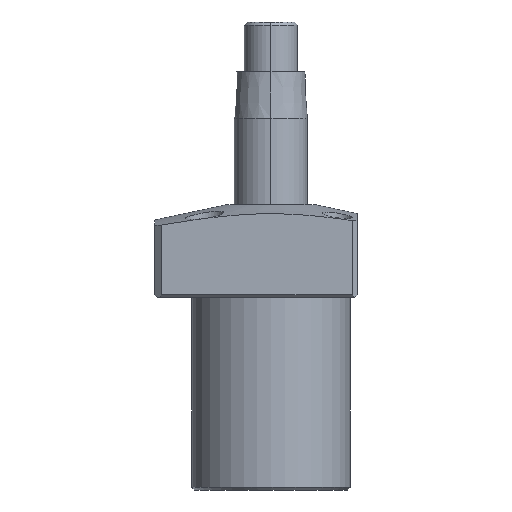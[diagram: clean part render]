
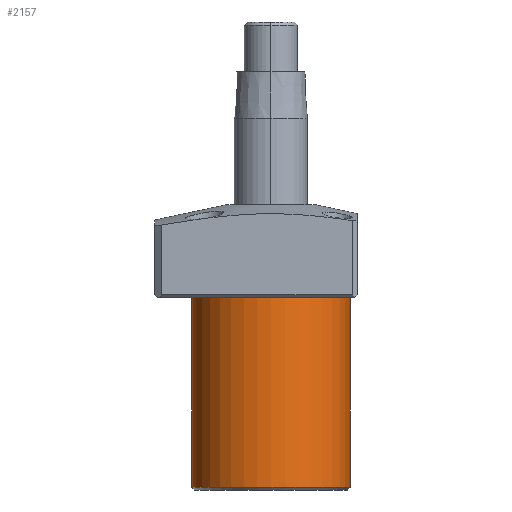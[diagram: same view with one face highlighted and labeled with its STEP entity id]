
A CAD part, front view. The second image highlights one B-rep face of the part: STEP entity #2157.
In plain terms, the highlighted cylindrical face has radius 23.9 mm (diameter 47.8 mm), a partial arc.
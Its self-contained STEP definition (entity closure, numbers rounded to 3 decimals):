
#34 = DIRECTION ( 'NONE',  ( 1., 0., 0. ) ) ;
#80 = DIRECTION ( 'NONE',  ( 0., 0., -1. ) ) ;
#83 = CARTESIAN_POINT ( 'NONE',  ( 23.9, 0., 0.8 ) ) ;
#253 = DIRECTION ( 'NONE',  ( 0., 0., -1. ) ) ;
#286 = CARTESIAN_POINT ( 'NONE',  ( 23.9, 0., 58. ) ) ;
#298 = FACE_OUTER_BOUND ( 'NONE', #1906, .T. ) ;
#452 = ORIENTED_EDGE ( 'NONE', *, *, #1625, .T. ) ;
#460 = CARTESIAN_POINT ( 'NONE',  ( 0., 0., 58. ) ) ;
#573 = CIRCLE ( 'NONE', #2129, 23.9 ) ;
#725 = ORIENTED_EDGE ( 'NONE', *, *, #1578, .T. ) ;
#865 = DIRECTION ( 'NONE',  ( -1., 0., 0. ) ) ;
#1027 = ORIENTED_EDGE ( 'NONE', *, *, #2264, .F. ) ;
#1161 = VECTOR ( 'NONE', #2242, 1000. ) ;
#1450 = DIRECTION ( 'NONE',  ( 0., 0., 1. ) ) ;
#1463 = VERTEX_POINT ( 'NONE', #2013 ) ;
#1464 = CARTESIAN_POINT ( 'NONE',  ( 0., 0., 0.8 ) ) ;
#1578 = EDGE_CURVE ( 'NONE', #1463, #1791, #2395, .T. ) ;
#1625 = EDGE_CURVE ( 'NONE', #1791, #1669, #573, .T. ) ;
#1669 = VERTEX_POINT ( 'NONE', #83 ) ;
#1690 = EDGE_CURVE ( 'NONE', #1463, #2159, #2212, .T. ) ;
#1691 = CYLINDRICAL_SURFACE ( 'NONE', #1751, 23.9 ) ;
#1693 = CARTESIAN_POINT ( 'NONE',  ( 0., 0., 58. ) ) ;
#1751 = AXIS2_PLACEMENT_3D ( 'NONE', #460, #253, #865 ) ;
#1791 = VERTEX_POINT ( 'NONE', #2533 ) ;
#1822 = CARTESIAN_POINT ( 'NONE',  ( -23.9, 0., 58. ) ) ;
#1834 = VECTOR ( 'NONE', #80, 1000. ) ;
#1876 = LINE ( 'NONE', #2087, #1834 ) ;
#1904 = DIRECTION ( 'NONE',  ( 1., 0., 0. ) ) ;
#1906 = EDGE_LOOP ( 'NONE', ( #1027, #2453, #725, #452 ) ) ;
#1957 = AXIS2_PLACEMENT_3D ( 'NONE', #1693, #2490, #34 ) ;
#2013 = CARTESIAN_POINT ( 'NONE',  ( -23.9, 0., 58. ) ) ;
#2087 = CARTESIAN_POINT ( 'NONE',  ( 23.9, 0., 58. ) ) ;
#2129 = AXIS2_PLACEMENT_3D ( 'NONE', #1464, #1450, #1904 ) ;
#2157 = ADVANCED_FACE ( 'NONE', ( #298 ), #1691, .T. ) ;
#2159 = VERTEX_POINT ( 'NONE', #286 ) ;
#2212 = CIRCLE ( 'NONE', #1957, 23.9 ) ;
#2242 = DIRECTION ( 'NONE',  ( 0., 0., -1. ) ) ;
#2264 = EDGE_CURVE ( 'NONE', #2159, #1669, #1876, .T. ) ;
#2395 = LINE ( 'NONE', #1822, #1161 ) ;
#2453 = ORIENTED_EDGE ( 'NONE', *, *, #1690, .F. ) ;
#2490 = DIRECTION ( 'NONE',  ( 0., 0., 1. ) ) ;
#2533 = CARTESIAN_POINT ( 'NONE',  ( -23.9, 0., 0.8 ) ) ;
